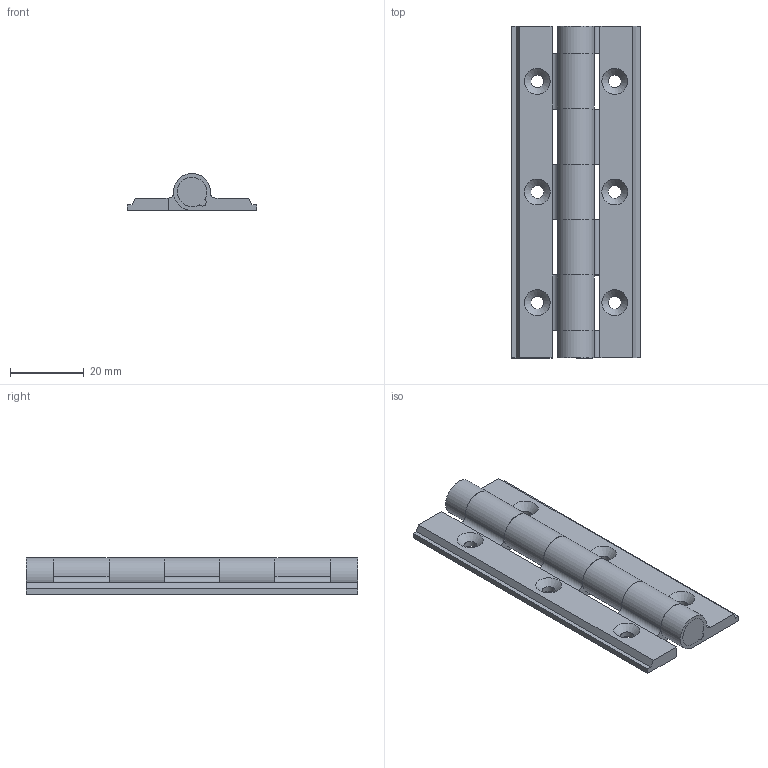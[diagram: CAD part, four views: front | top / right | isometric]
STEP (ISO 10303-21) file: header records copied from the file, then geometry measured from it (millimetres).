
FILE_DESCRIPTION(/* description */ ('Unknown'),/* implementation_level */ '2;1');
FILE_NAME(/* name */ '6897',/* time_stamp */ '2023-10-11T13:54:32+02:00',/* author */ ('Unknown'),/* organization */ ('Unknown'),/* preprocessor_version */ 'ST-DEVELOPER v16.7',/* originating_system */ 'DEX',/* authorisation */ $);
FILE_SCHEMA (('AUTOMOTIVE_DESIGN {1 0 10303 214 3 1 1}'));
Length unit declared in the file: millimetre
Products named in the file (4): 6897; TEIL1; TEIL2; TEIL3
Assembly tree (3 placements, depth 2):
  6897
    TEIL1
    TEIL2
    TEIL3
Bounding box: 35 x 90 x 9.99 mm (x, y, z)
Volume: 13695 mm3; surface area: 13076.2 mm2
Topology: 3 solids, 3 shells, 78 faces, 221 edges, 145 vertices
Faces by surface type: plane 35, cylinder 32, cone 6, sphere 5
Full cylindrical faces by diameter (mm): 3.5 x6, 8 x6
Entity records: 2415 total; most frequent: CARTESIAN_POINT 410, DIRECTION 409, ORIENTED_EDGE 358, EDGE_CURVE 179, AXIS2_PLACEMENT_3D 153, VERTEX_POINT 126, EDGE_LOOP 121, FACE_BOUND 121
